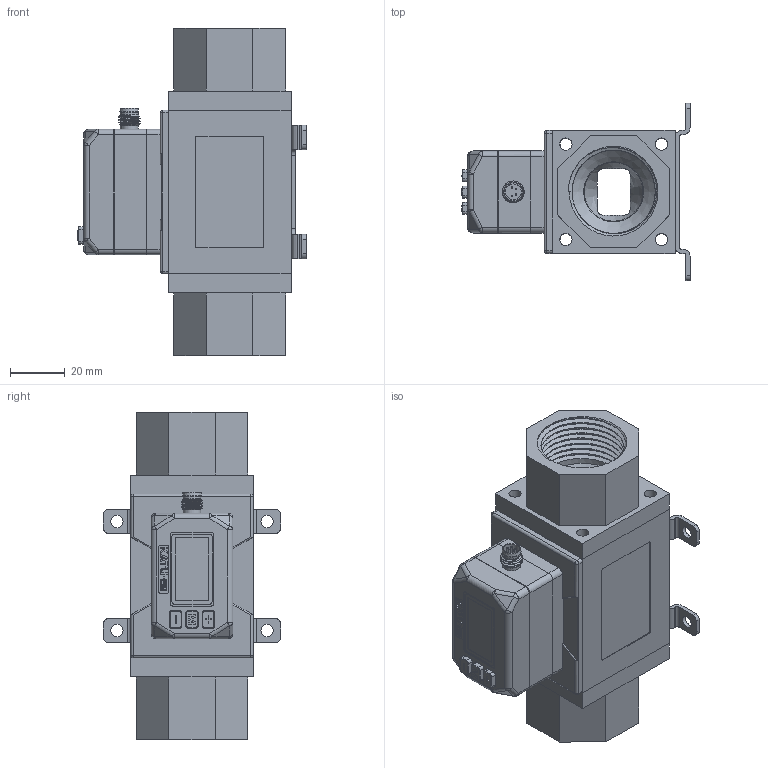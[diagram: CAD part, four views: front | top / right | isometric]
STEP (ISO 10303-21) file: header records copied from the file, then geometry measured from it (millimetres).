
FILE_DESCRIPTION( (''), '2;1');
FILE_NAME( 'QEKJ_100L_R1_M12_LED-display_bracket.step', '2023-06-26T19:32:54+08:00', (''), (''), '', '', '');
FILE_SCHEMA (('AUTOMOTIVE_DESIGN { 1 0 10303 214 3 1 1 1 }'));
Length unit declared in the file: millimetre
Products named in the file (1): QEKJ 100L_R1_M12_LED-display_bracket
Bounding box: 83.6 x 65 x 120 mm (x, y, z)
Volume: 135646.5 mm3; surface area: 77983.8 mm2
Topology: 8 solids, 9 shells, 1002 faces, 2750 edges, 1798 vertices
Faces by surface type: plane 679, cylinder 229, cone 36, sphere 20, torus 18, extrusion 14, bspline 6
Full cylindrical faces by diameter (mm): 0.6 x4, 2.05 x4, 2.7 x4, 3 x4, 4.5 x24, 5 x4, 5.8 x1, 6.5 x2, 7 x4, 8 x1, 22 x2, 25 x2, 28 x4, 30.5 x16
Entity records: 35198 total; most frequent: CARTESIAN_POINT 9903, ORIENTED_EDGE 5088, DIRECTION 4758, EDGE_CURVE 2544, VECTOR 1862, LINE 1848, VERTEX_POINT 1717, AXIS2_PLACEMENT_3D 1448
